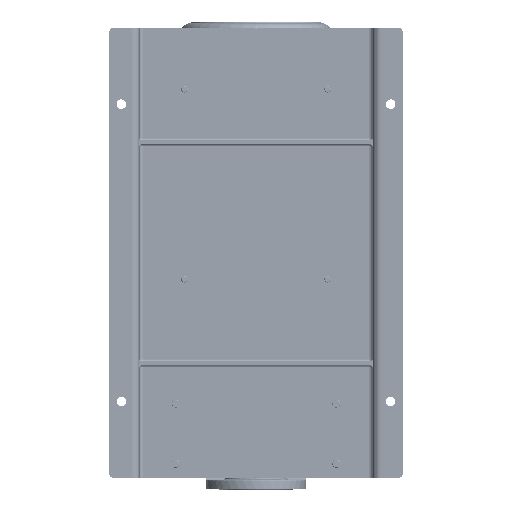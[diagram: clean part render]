
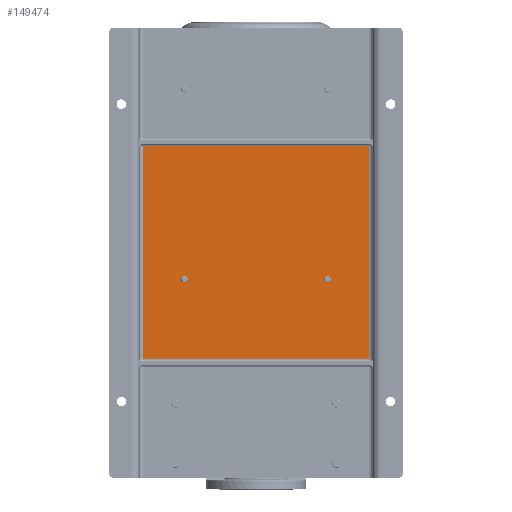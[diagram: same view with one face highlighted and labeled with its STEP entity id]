
A CAD part, front view. The second image highlights one B-rep face of the part: STEP entity #149474.
In plain terms, the highlighted planar face has unit normal (0, -1, 0).
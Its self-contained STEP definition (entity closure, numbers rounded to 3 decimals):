
#167 = VERTEX_POINT ( 'NONE', #124201 ) ;
#9886 = CARTESIAN_POINT ( 'NONE',  ( 187., 90., -486. ) ) ;
#10322 = VECTOR ( 'NONE', #102193, 1000. ) ;
#12656 = DIRECTION ( 'NONE',  ( -1., 0., 0. ) ) ;
#13862 = LINE ( 'NONE', #115050, #10322 ) ;
#19955 = CARTESIAN_POINT ( 'NONE',  ( 543., 90., -502. ) ) ;
#21162 = EDGE_CURVE ( 'NONE', #132756, #67071, #26842, .T. ) ;
#21278 = EDGE_CURVE ( 'NONE', #154835, #133786, #13862, .T. ) ;
#26383 = EDGE_LOOP ( 'NONE', ( #53419, #27622 ) ) ;
#26552 = CARTESIAN_POINT ( 'NONE',  ( 645., 90., -290. ) ) ;
#26724 = EDGE_CURVE ( 'NONE', #167, #154835, #74118, .T. ) ;
#26842 = CIRCLE ( 'NONE', #128035, 8. ) ;
#27597 = DIRECTION ( 'NONE',  ( 0., 0., 1. ) ) ;
#27622 = ORIENTED_EDGE ( 'NONE', *, *, #133759, .T. ) ;
#27671 = CARTESIAN_POINT ( 'NONE',  ( 645., 90., -825. ) ) ;
#29271 = DIRECTION ( 'NONE',  ( 0., 1., 0. ) ) ;
#31719 = ORIENTED_EDGE ( 'NONE', *, *, #100379, .T. ) ;
#31932 = CIRCLE ( 'NONE', #108507, 8. ) ;
#39993 = VERTEX_POINT ( 'NONE', #9886 ) ;
#40457 = CARTESIAN_POINT ( 'NONE',  ( 543., 90., -494. ) ) ;
#45573 = DIRECTION ( 'NONE',  ( 0., 0., -1. ) ) ;
#46178 = EDGE_LOOP ( 'NONE', ( #57362, #66236 ) ) ;
#46856 = AXIS2_PLACEMENT_3D ( 'NONE', #122701, #163032, #45573 ) ;
#47023 = DIRECTION ( 'NONE',  ( 0., 1., 0. ) ) ;
#47284 = FACE_BOUND ( 'NONE', #46178, .T. ) ;
#47532 = DIRECTION ( 'NONE',  ( 0., 0., -1. ) ) ;
#52136 = CARTESIAN_POINT ( 'NONE',  ( 75., 90., -295. ) ) ;
#53419 = ORIENTED_EDGE ( 'NONE', *, *, #110533, .T. ) ;
#55718 = VERTEX_POINT ( 'NONE', #167700 ) ;
#56556 = EDGE_LOOP ( 'NONE', ( #74191, #119854, #134956, #31719 ) ) ;
#57362 = ORIENTED_EDGE ( 'NONE', *, *, #21162, .T. ) ;
#57882 = CARTESIAN_POINT ( 'NONE',  ( 85., 90., -830. ) ) ;
#62474 = EDGE_CURVE ( 'NONE', #67071, #132756, #101894, .T. ) ;
#66236 = ORIENTED_EDGE ( 'NONE', *, *, #62474, .T. ) ;
#67071 = VERTEX_POINT ( 'NONE', #19955 ) ;
#70468 = FACE_OUTER_BOUND ( 'NONE', #56556, .T. ) ;
#70793 = VECTOR ( 'NONE', #47532, 1000. ) ;
#71333 = PLANE ( 'NONE',  #46856 ) ;
#74118 = LINE ( 'NONE', #57882, #70793 ) ;
#74191 = ORIENTED_EDGE ( 'NONE', *, *, #26724, .T. ) ;
#82242 = LINE ( 'NONE', #26552, #119083 ) ;
#83032 = CARTESIAN_POINT ( 'NONE',  ( 187., 90., -494. ) ) ;
#89335 = VERTEX_POINT ( 'NONE', #119145 ) ;
#96705 = DIRECTION ( 'NONE',  ( 0., 0., -1. ) ) ;
#99524 = FACE_BOUND ( 'NONE', #26383, .T. ) ;
#100011 = EDGE_CURVE ( 'NONE', #133786, #89335, #82242, .T. ) ;
#100379 = EDGE_CURVE ( 'NONE', #89335, #167, #131749, .T. ) ;
#101894 = CIRCLE ( 'NONE', #167644, 8. ) ;
#102193 = DIRECTION ( 'NONE',  ( 1., 0., 0. ) ) ;
#104555 = DIRECTION ( 'NONE',  ( 0., 0., 1. ) ) ;
#108507 = AXIS2_PLACEMENT_3D ( 'NONE', #83032, #47023, #96705 ) ;
#110533 = EDGE_CURVE ( 'NONE', #39993, #55718, #31932, .T. ) ;
#112517 = CARTESIAN_POINT ( 'NONE',  ( 543., 90., -494. ) ) ;
#115050 = CARTESIAN_POINT ( 'NONE',  ( 75., 90., -825. ) ) ;
#119083 = VECTOR ( 'NONE', #104555, 1000. ) ;
#119145 = CARTESIAN_POINT ( 'NONE',  ( 645., 90., -295. ) ) ;
#119854 = ORIENTED_EDGE ( 'NONE', *, *, #21278, .T. ) ;
#122701 = CARTESIAN_POINT ( 'NONE',  ( 75., 90., -1120. ) ) ;
#124201 = CARTESIAN_POINT ( 'NONE',  ( 85., 90., -295. ) ) ;
#128035 = AXIS2_PLACEMENT_3D ( 'NONE', #112517, #165715, #139104 ) ;
#131749 = LINE ( 'NONE', #52136, #163096 ) ;
#132756 = VERTEX_POINT ( 'NONE', #162206 ) ;
#133759 = EDGE_CURVE ( 'NONE', #55718, #39993, #159599, .T. ) ;
#133786 = VERTEX_POINT ( 'NONE', #27671 ) ;
#134956 = ORIENTED_EDGE ( 'NONE', *, *, #100011, .T. ) ;
#137786 = AXIS2_PLACEMENT_3D ( 'NONE', #143430, #168363, #141749 ) ;
#139104 = DIRECTION ( 'NONE',  ( 0., 0., 1. ) ) ;
#140943 = CARTESIAN_POINT ( 'NONE',  ( 85., 90., -825. ) ) ;
#141749 = DIRECTION ( 'NONE',  ( 0., 0., -1. ) ) ;
#143430 = CARTESIAN_POINT ( 'NONE',  ( 187., 90., -494. ) ) ;
#149474 = ADVANCED_FACE ( 'NONE', ( #47284, #99524, #70468 ), #71333, .T. ) ;
#154835 = VERTEX_POINT ( 'NONE', #140943 ) ;
#159599 = CIRCLE ( 'NONE', #137786, 8. ) ;
#162206 = CARTESIAN_POINT ( 'NONE',  ( 543., 90., -486. ) ) ;
#163032 = DIRECTION ( 'NONE',  ( 0., -1., 0. ) ) ;
#163096 = VECTOR ( 'NONE', #12656, 1000. ) ;
#165715 = DIRECTION ( 'NONE',  ( 0., 1., 0. ) ) ;
#167644 = AXIS2_PLACEMENT_3D ( 'NONE', #40457, #29271, #27597 ) ;
#167700 = CARTESIAN_POINT ( 'NONE',  ( 187., 90., -502. ) ) ;
#168363 = DIRECTION ( 'NONE',  ( 0., 1., 0. ) ) ;
